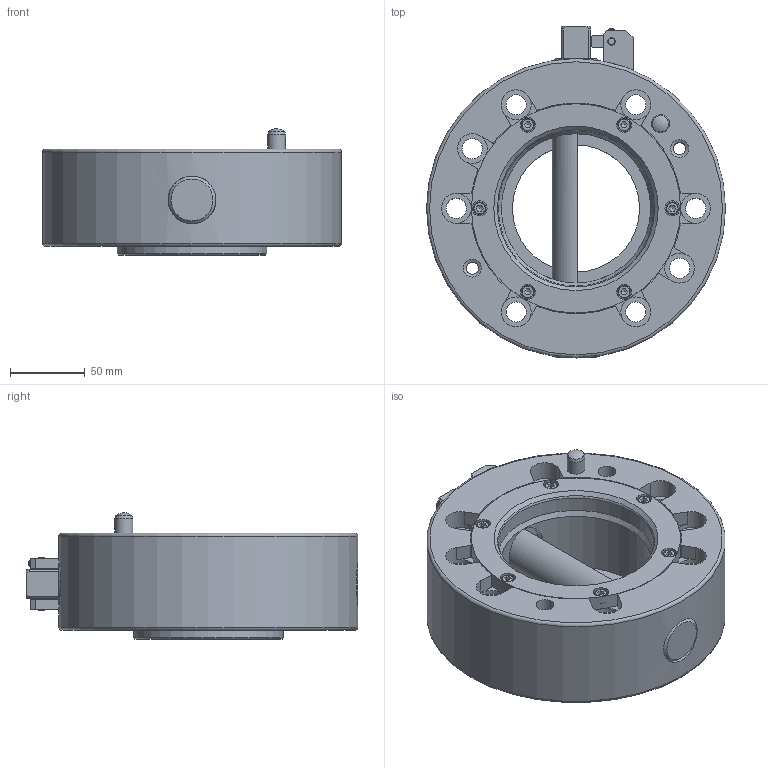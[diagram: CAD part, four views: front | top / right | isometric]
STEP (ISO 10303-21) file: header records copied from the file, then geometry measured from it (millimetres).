
FILE_DESCRIPTION(/* description */ (''),/* implementation_level */ '2;1');
FILE_NAME(/* name */ '\\dc01\daten\CAD\Standard\Daten\3D-Datenbank\SWS\4 - 3D-CAD-Daten SWS 050-160\SWS200\step-Daten\G-SWS200-2O-N-M12.stp',/* time_stamp */ '2015-01-29T10:02:16+01:00',/* author */ ('ysplieth'),/* organization */ ('GRIP GmbH'),/* preprocessor_version */ 'ST-DEVELOPER v15.2',/* originating_system */ 'Autodesk Inventor 2014',/* authorisation */ '');
FILE_SCHEMA (('AUTOMOTIVE_DESIGN { 1 0 10303 214 3 1 1 }'));
Length unit declared in the file: millimetre
Products named in the file (1): Bauteil3
Bounding box: 200 x 222 x 84.43 mm (x, y, z)
Volume: 1488753.7 mm3; surface area: 174808.5 mm2
Topology: 2 solids, 13 shells, 388 faces, 964 edges, 620 vertices
Faces by surface type: plane 183, cylinder 132, cone 51, torus 20, sphere 2
Full cylindrical faces by diameter (mm): 3.242 x2, 3.3 x1, 4 x3, 4.134 x6, 4.5 x2, 5 x9, 5.1 x2, 5.5 x7, 6.647 x2, 7 x2, 8 x4, 8.5 x6, 9 x1, 10 x9, 12 x6, 13.5 x8, 20 x8, 32 x3, 85 x1, 100 x2, 104 x1, 120 x2, 140 x1, 200 x1
Entity records: 11173 total; most frequent: CARTESIAN_POINT 2534, DIRECTION 1742, ORIENTED_EDGE 1468, EDGE_CURVE 732, AXIS2_PLACEMENT_3D 722, EDGE_LOOP 612, VERTEX_POINT 544, STYLED_ITEM 390
